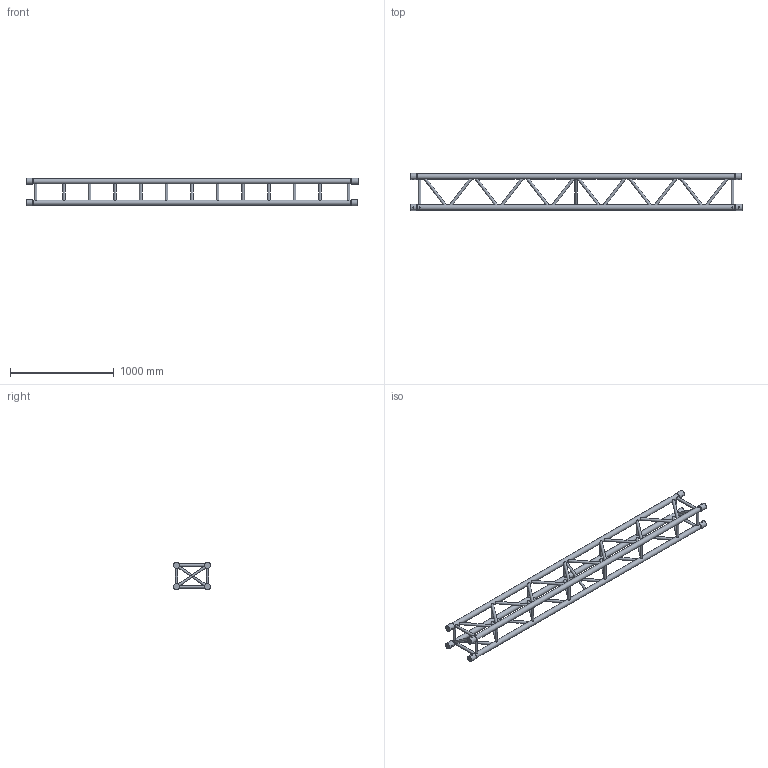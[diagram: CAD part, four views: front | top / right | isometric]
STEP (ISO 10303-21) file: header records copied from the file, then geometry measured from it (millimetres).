
FILE_DESCRIPTION(/* description */ (''),/* implementation_level */ '2;1');
FILE_NAME(/* name */ 'C:\Users\adrian.toca\Desktop\111110053.stp',/* time_stamp */ '2016-09-15T11:47:17+03:00',/* author */ ('adrian.toca'),/* organization */ (''),/* preprocessor_version */ 'ST-DEVELOPER v15.6',/* originating_system */ 'Autodesk Inventor 2015',/* authorisation */ '');
FILE_SCHEMA (('AUTOMOTIVE_DESIGN { 1 0 10303 214 3 1 1 }'));
Length unit declared in the file: millimetre
Products named in the file (1): 260030909
Bounding box: 3200 x 357.8 x 265.8 mm (x, y, z)
Volume: 31286355.4 mm3; surface area: 3023721.7 mm2
Topology: 22 solids, 26 shells, 256 faces, 512 edges, 320 vertices
Faces by surface type: cylinder 134, plane 114, cone 8
Full cylindrical faces by diameter (mm): 10 x8, 25 x46, 50 x4, 58.8 x8
Entity records: 8619 total; most frequent: CARTESIAN_POINT 4079, DIRECTION 832, ORIENTED_EDGE 756, EDGE_LOOP 420, AXIS2_PLACEMENT_3D 391, EDGE_CURVE 332, VERTEX_POINT 246, STYLED_ITEM 222
